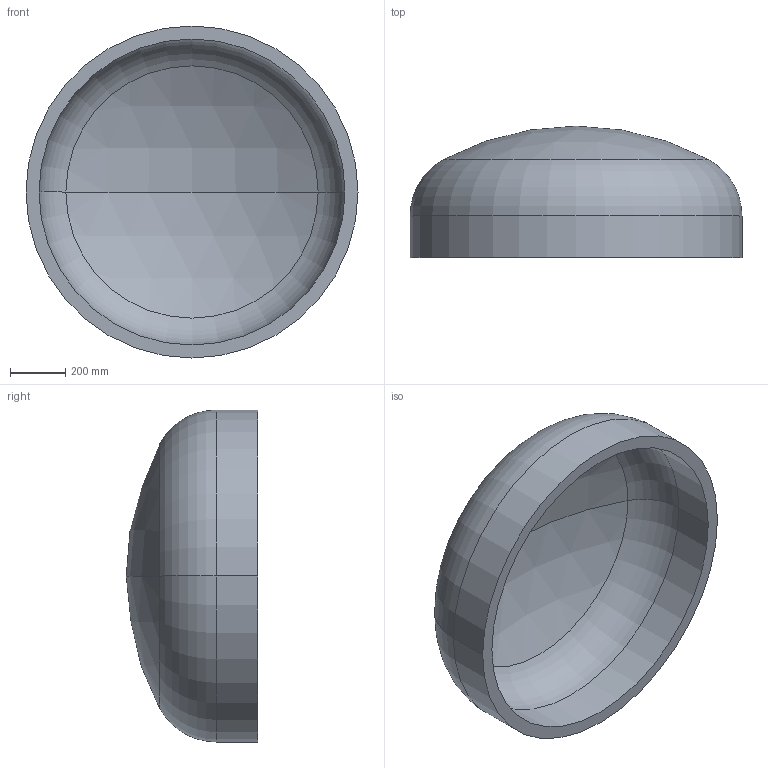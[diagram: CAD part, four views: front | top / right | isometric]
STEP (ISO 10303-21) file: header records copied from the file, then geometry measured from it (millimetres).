
FILE_DESCRIPTION (( 'STEP AP203' ), '1' );
FILE_NAME ('DIN 28013 Korbbogenform_-_Boden DIN 28013 - 1200 x 150 - I - s=47.step', '2016-07-01T09:30:16', ( '' ), ( '' ), 'SwSTEP 2.0', 'SolidWorks 2013', '' );
FILE_SCHEMA (( 'CONFIG_CONTROL_DESIGN' ));
Length unit declared in the file: millimetre
Products named in the file (1): DIN 28013 Korbbogenform_-_Boden DIN 28013 - 1200 x 150 - I - s=47
Bounding box: 1200 x 474.94 x 1200 mm (x, y, z)
Volume: 95526923.7 mm3; surface area: 4239847.1 mm2
Topology: 1 solids, 1 shells, 13 faces, 24 edges, 14 vertices
Faces by surface type: torus 4, cylinder 4, sphere 4, plane 1
Entity records: 407 total; most frequent: DIRECTION 72, CARTESIAN_POINT 52, ORIENTED_EDGE 48, AXIS2_PLACEMENT_3D 34, EDGE_CURVE 24, CIRCLE 20, EDGE_LOOP 14, VERTEX_POINT 14
